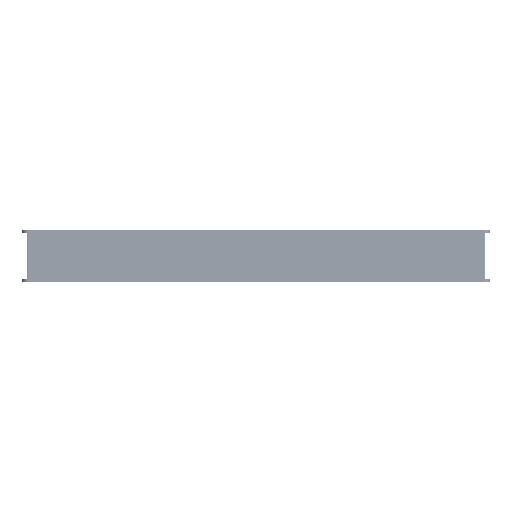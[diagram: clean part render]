
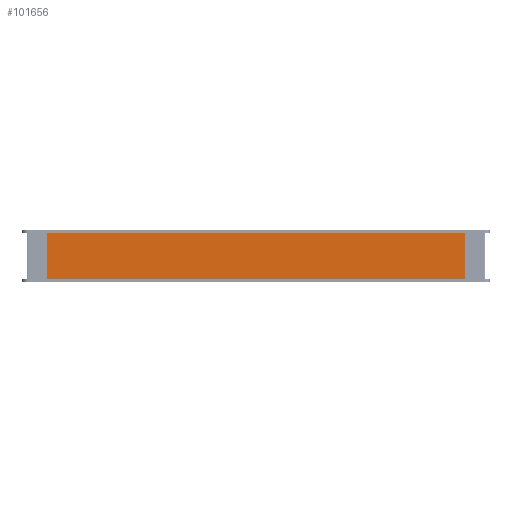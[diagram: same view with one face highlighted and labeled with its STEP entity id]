
A CAD part, left-side view. The second image highlights one B-rep face of the part: STEP entity #101656.
In plain terms, the highlighted planar face has unit normal (-1, 0, 0).
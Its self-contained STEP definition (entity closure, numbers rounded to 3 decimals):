
#12007 = CARTESIAN_POINT ( 'NONE',  ( -1025.983, 467.86, -42.045 ) ) ;
#13954 = ORIENTED_EDGE ( 'NONE', *, *, #90015, .T. ) ;
#17054 = CARTESIAN_POINT ( 'NONE',  ( -1025.983, 467.86, -42.045 ) ) ;
#18823 = CARTESIAN_POINT ( 'NONE',  ( -1025.983, -398.14, -42.045 ) ) ;
#21175 = DIRECTION ( 'NONE',  ( 0., 0., 1. ) ) ;
#27579 = VECTOR ( 'NONE', #114855, 1000. ) ;
#32669 = DIRECTION ( 'NONE',  ( 0., 0., -1. ) ) ;
#33832 = FACE_OUTER_BOUND ( 'NONE', #166548, .T. ) ;
#35659 = EDGE_CURVE ( 'NONE', #81887, #137695, #65551, .T. ) ;
#36528 = CARTESIAN_POINT ( 'NONE',  ( -1025.983, 34.86, -86.545 ) ) ;
#39867 = LINE ( 'NONE', #17054, #121790 ) ;
#45052 = CARTESIAN_POINT ( 'NONE',  ( -1025.983, -398.14, -42.045 ) ) ;
#50712 = VERTEX_POINT ( 'NONE', #12007 ) ;
#51066 = PLANE ( 'NONE',  #67989 ) ;
#51833 = VERTEX_POINT ( 'NONE', #45052 ) ;
#56111 = LINE ( 'NONE', #18823, #155179 ) ;
#56268 = CARTESIAN_POINT ( 'NONE',  ( -1025.983, -398.14, -131.045 ) ) ;
#59908 = LINE ( 'NONE', #169002, #27579 ) ;
#65551 = LINE ( 'NONE', #148072, #162326 ) ;
#67989 = AXIS2_PLACEMENT_3D ( 'NONE', #36528, #147842, #78124 ) ;
#70499 = CARTESIAN_POINT ( 'NONE',  ( -1025.983, 467.86, -131.045 ) ) ;
#78124 = DIRECTION ( 'NONE',  ( 0., -1., 0. ) ) ;
#79556 = DIRECTION ( 'NONE',  ( 0., -1., 0. ) ) ;
#81887 = VERTEX_POINT ( 'NONE', #70499 ) ;
#83421 = ORIENTED_EDGE ( 'NONE', *, *, #148397, .T. ) ;
#90015 = EDGE_CURVE ( 'NONE', #137695, #51833, #56111, .T. ) ;
#101656 = ADVANCED_FACE ( 'NONE', ( #33832 ), #51066, .F. ) ;
#114855 = DIRECTION ( 'NONE',  ( 0., 1., 0. ) ) ;
#121790 = VECTOR ( 'NONE', #32669, 1000. ) ;
#136423 = ORIENTED_EDGE ( 'NONE', *, *, #165170, .T. ) ;
#137695 = VERTEX_POINT ( 'NONE', #56268 ) ;
#147842 = DIRECTION ( 'NONE',  ( 1., 0., 0. ) ) ;
#148072 = CARTESIAN_POINT ( 'NONE',  ( -1025.983, -398.14, -131.045 ) ) ;
#148397 = EDGE_CURVE ( 'NONE', #50712, #81887, #39867, .T. ) ;
#155179 = VECTOR ( 'NONE', #21175, 1000. ) ;
#162326 = VECTOR ( 'NONE', #79556, 1000. ) ;
#163984 = ORIENTED_EDGE ( 'NONE', *, *, #35659, .T. ) ;
#165170 = EDGE_CURVE ( 'NONE', #51833, #50712, #59908, .T. ) ;
#166548 = EDGE_LOOP ( 'NONE', ( #83421, #163984, #13954, #136423 ) ) ;
#169002 = CARTESIAN_POINT ( 'NONE',  ( -1025.983, -398.14, -42.045 ) ) ;
